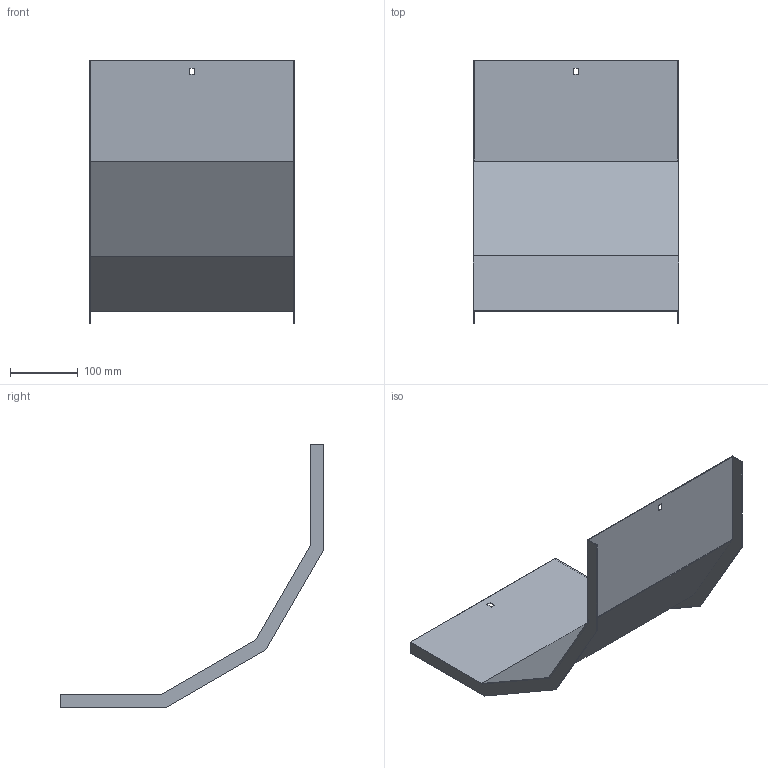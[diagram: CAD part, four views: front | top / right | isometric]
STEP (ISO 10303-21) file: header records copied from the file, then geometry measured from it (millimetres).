
FILE_DESCRIPTION (( 'STEP AP214' ), '1' );
FILE_NAME ('A2X30N3R300X.step', '2025-04-02T08:34:08', ( '' ), ( '' ), 'SwSTEP 2.0', 'SolidWorks 2023', '' );
FILE_SCHEMA (( 'AUTOMOTIVE_DESIGN' ));
Length unit declared in the file: millimetre
Products named in the file (1): A2X30N3R300X
Bounding box: 303 x 388.95 x 388.95 mm (x, y, z)
Volume: 317735.7 mm3; surface area: 426714.7 mm2
Topology: 1 solids, 1 shells, 30 faces, 84 edges, 56 vertices
Faces by surface type: plane 30
Entity records: 979 total; most frequent: CARTESIAN_POINT 171, ORIENTED_EDGE 168, DIRECTION 146, EDGE_CURVE 84, LINE 84, VECTOR 84, VERTEX_POINT 56, EDGE_LOOP 34
